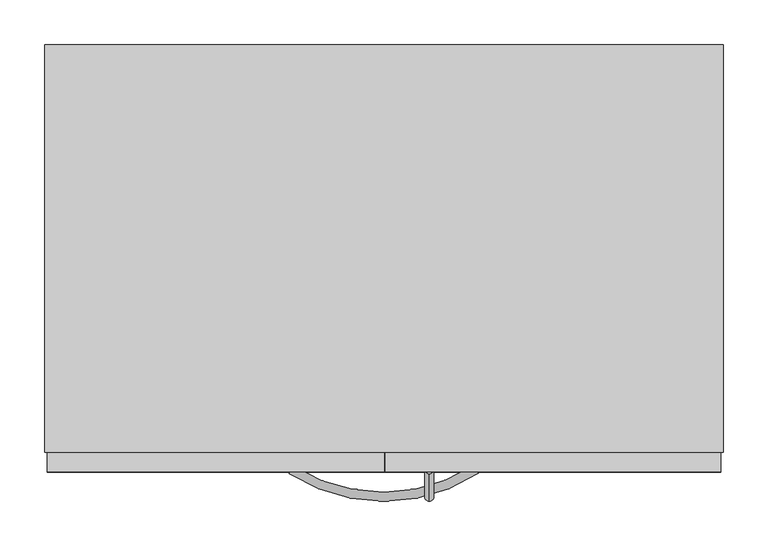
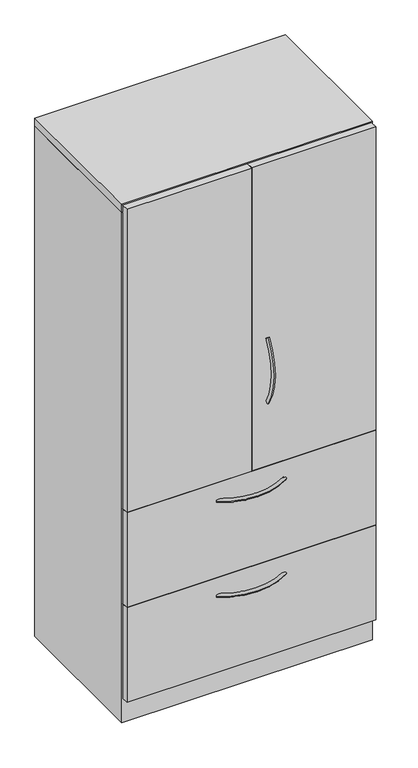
"""IFC4 building model written with IfcOpenShell, lengths in millimetres: furniture geometry, Steelcase - Universal Storage - Cabinet - Combination - Proud Steel : 65 1/2H - Hinged Doors/2 Drawers - 18 7/8D x 30W."""

from ifc_helpers import new_model, si_unit, point, frame, origin, place, context, project, spatial, polyline, circle_curve, ellipse_curve, trimmed, outline, extrude, faceted_brep, source, transform, mapped, element, save
from ifc_brep_helpers import plane_surface, revolved_surface, advanced_brep


def furniture_85a84d3b(model_context):
    return source(origin(), model_context, "Body", "SolidModel", [
        extrude(outline(polyline([(758.8225413, -479.552), (3.1725353, -479.552), (3.1725353, -457.3261219), (758.8225413, -457.3261219), (758.8225413, -479.552)])), frame((0.0, 0.0, 77.724), z_axis=(0.0, 0.0, 1.0), x_axis=(1.0, 0.0, 0.0)), (0.0, 0.0, 1.0), 303.276),
        extrude(outline(polyline([(758.8225413, -479.552), (3.1725353, -479.552), (3.1725353, -457.3261219), (758.8225413, -457.3261219), (758.8225413, -479.552)])), frame((0.0, 0.0, 382.524), z_axis=(0.0, 0.0, 1.0), x_axis=(1.0, 0.0, 0.0)), (0.0, 0.0, 1.0), 303.276),
        extrude(outline(polyline([(381.0, -479.552), (3.1725353, -479.552), (3.1725353, -457.3261219), (381.0, -457.3261219), (381.0, -479.552)])), frame((0.0, 0.0, 687.7062596), z_axis=(0.0, 0.0, 1.0), x_axis=(1.0, 0.0, 0.0)), (0.0, 0.0, 1.0), 972.82),
        extrude(outline(polyline([(758.8225413, -479.552), (382.5239992, -479.552), (382.5239992, -457.3261219), (758.8225413, -457.3261219), (758.8225413, -479.552)])), frame((0.0, 0.0, 687.7062596), z_axis=(0.0, 0.0, 1.0), x_axis=(1.0, 0.0, 0.0)), (0.0, 0.0, 1.0), 972.82),
        advanced_brep(
        [(431.7682496, -481.5705994, 1099.843666), (431.7682496, -473.0108019, 1094.3705073), (431.7682496, -481.1337636, 887.5367456), (431.7682496, -472.5965612, 893.0450825)],
        [
            (0, 1, circle_curve(frame((431.7682496, -477.2907007, 1097.1070866), z_axis=(0.0, 0.5386967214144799, 0.842499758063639), x_axis=(0.0, 0.842499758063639, -0.5386967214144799)), 5.08)),
            (1, 0, circle_curve(frame((431.7682496, -477.2907007, 1097.1070866), z_axis=(0.0, 0.5386967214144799, 0.842499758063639), x_axis=(0.0, 0.842499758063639, -0.5386967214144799)), 5.08)),
            (2, 3, circle_curve(frame((431.7682496, -476.8651624, 890.2909141), z_axis=(0.0, 0.5421591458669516, -0.8402758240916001), x_axis=(0.0, 0.8402758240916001, 0.5421591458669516)), 5.08)),
            (3, 2, circle_curve(frame((431.7682496, -476.8651624, 890.2909141), z_axis=(0.0, 0.5421591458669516, -0.8402758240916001), x_axis=(0.0, 0.8402758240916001, 0.5421591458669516)), 5.08)),
            (3, 1, circle_curve(frame((431.7682496, -316.0827352, 994.0302589), z_axis=(-1.0, 0.0, 0.0), x_axis=(0.0, -0.8424997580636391, 0.5386967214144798)), 186.2648211)),
            (0, 2, circle_curve(frame((431.7682496, -316.0827352, 994.0302589), z_axis=(1.0, 0.0, 0.0), x_axis=(0.0, -0.8424997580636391, 0.5386967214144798)), 196.4248211)),
        ],
        [
            plane_surface(frame((432.5619996, -476.6365286, 1096.6888072), z_axis=(0.0, 0.5386967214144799, 0.8424997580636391), x_axis=(1.0, 0.0, 0.0))),
            plane_surface(frame((432.5619996, -476.2127171, 890.711882), z_axis=(0.0, 0.5421591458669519, -0.8402758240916), x_axis=(1.0, 0.0, 0.0))),
            revolved_surface(trimmed(ellipse_curve(frame((431.7682496, -477.2907007, 1097.1070866), z_axis=(0.0, 0.5386967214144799, 0.842499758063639), x_axis=(0.0, 0.842499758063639, -0.5386967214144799)), 5.08, 5.08), [point((431.7682496, -481.5705994, 1099.843666))], [point((431.7682496, -473.0108019, 1094.3705073))], True, "CARTESIAN"), (432.5619996, -316.0827352, 994.0302589), (1.0, 0.0, 0.0)),
            revolved_surface(trimmed(ellipse_curve(frame((431.7682496, -477.2907007, 1097.1070866), z_axis=(0.0, 0.5386967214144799, 0.842499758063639), x_axis=(0.0, 0.842499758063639, -0.5386967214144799)), 5.08, 5.08), [point((431.7682496, -473.0108019, 1094.3705073))], [point((431.7682496, -481.5705994, 1099.843666))], True, "CARTESIAN"), (432.5619996, -316.0827352, 994.0302589), (1.0, 0.0, 0.0)),
        ],
        [
            (0, [[1, 2]]),
            (1, [[3, 4]]),
            (2, [[5, -1, 6, -4]]),
            (3, [[-6, -2, -5, -3]]),
        ],
    ),
        advanced_brep(
        [(274.4245932, -481.5705994, 323.56425), (279.8977519, -473.0108019, 323.56425), (486.7315136, -481.1337636, 323.56425), (481.2231767, -472.5965612, 323.56425)],
        [
            (0, 1, circle_curve(frame((277.1611726, -477.2907007, 323.56425), z_axis=(-0.8424997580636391, 0.5386967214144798, 0.0), x_axis=(0.5386967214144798, 0.8424997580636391, 0.0)), 5.08)),
            (1, 0, circle_curve(frame((277.1611726, -477.2907007, 323.56425), z_axis=(-0.8424997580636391, 0.5386967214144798, 0.0), x_axis=(0.5386967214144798, 0.8424997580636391, 0.0)), 5.08)),
            (2, 3, circle_curve(frame((483.9773452, -476.8651624, 323.56425), z_axis=(0.8402758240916, 0.5421591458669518, 0.0), x_axis=(-0.5421591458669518, 0.8402758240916, 0.0)), 5.08)),
            (3, 2, circle_curve(frame((483.9773452, -476.8651624, 323.56425), z_axis=(0.8402758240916, 0.5421591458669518, 0.0), x_axis=(-0.5421591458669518, 0.8402758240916, 0.0)), 5.08)),
            (3, 1, circle_curve(frame((380.2380004, -316.0827352, 323.56425), z_axis=(0.0, 0.0, -1.0), x_axis=(-0.5386967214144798, -0.8424997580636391, 0.0)), 186.2648211)),
            (0, 2, circle_curve(frame((380.2380004, -316.0827352, 323.56425), z_axis=(0.0, 0.0, 1.0), x_axis=(-0.5386967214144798, -0.8424997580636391, 0.0)), 196.4248211)),
        ],
        [
            plane_surface(frame((277.5794521, -476.6365286, 324.358), z_axis=(-0.8424997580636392, 0.5386967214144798, 0.0), x_axis=(0.0, 0.0, 1.0))),
            plane_surface(frame((483.5563772, -476.2127171, 324.358), z_axis=(0.8402758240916, 0.5421591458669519, 0.0), x_axis=(0.0, 0.0, 1.0))),
            revolved_surface(trimmed(ellipse_curve(frame((277.1611726, -477.2907007, 323.56425), z_axis=(-0.8424997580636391, 0.5386967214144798, 0.0), x_axis=(0.5386967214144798, 0.8424997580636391, 0.0)), 5.08, 5.08), [point((274.4245932, -481.5705994, 323.56425))], [point((279.8977519, -473.0108019, 323.56425))], True, "CARTESIAN"), (380.2380004, -316.0827352, 324.358), (0.0, 0.0, 1.0)),
            revolved_surface(trimmed(ellipse_curve(frame((277.1611726, -477.2907007, 323.56425), z_axis=(-0.8424997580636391, 0.5386967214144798, 0.0), x_axis=(0.5386967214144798, 0.8424997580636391, 0.0)), 5.08, 5.08), [point((279.8977519, -473.0108019, 323.56425))], [point((274.4245932, -481.5705994, 323.56425))], True, "CARTESIAN"), (380.2380004, -316.0827352, 324.358), (0.0, 0.0, 1.0)),
        ],
        [
            (0, [[1, 2]]),
            (1, [[3, 4]]),
            (2, [[5, -1, 6, -4]]),
            (3, [[-6, -2, -5, -3]]),
        ],
    ),
        advanced_brep(
        [(274.4245932, -481.5705994, 627.85625), (279.8977519, -473.0108019, 627.85625), (486.7315136, -481.1337636, 627.85625), (481.2231767, -472.5965612, 627.85625)],
        [
            (0, 1, circle_curve(frame((277.1611726, -477.2907007, 627.85625), z_axis=(-0.8424997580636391, 0.5386967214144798, 0.0), x_axis=(0.5386967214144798, 0.8424997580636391, 0.0)), 5.08)),
            (1, 0, circle_curve(frame((277.1611726, -477.2907007, 627.85625), z_axis=(-0.8424997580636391, 0.5386967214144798, 0.0), x_axis=(0.5386967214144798, 0.8424997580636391, 0.0)), 5.08)),
            (2, 3, circle_curve(frame((483.9773452, -476.8651624, 627.85625), z_axis=(0.8402758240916, 0.5421591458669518, 0.0), x_axis=(-0.5421591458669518, 0.8402758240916, 0.0)), 5.08)),
            (3, 2, circle_curve(frame((483.9773452, -476.8651624, 627.85625), z_axis=(0.8402758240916, 0.5421591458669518, 0.0), x_axis=(-0.5421591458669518, 0.8402758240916, 0.0)), 5.08)),
            (3, 1, circle_curve(frame((380.2380004, -316.0827352, 627.85625), z_axis=(0.0, 0.0, -1.0), x_axis=(-0.5386967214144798, -0.8424997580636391, 0.0)), 186.2648211)),
            (0, 2, circle_curve(frame((380.2380004, -316.0827352, 627.85625), z_axis=(0.0, 0.0, 1.0), x_axis=(-0.5386967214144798, -0.8424997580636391, 0.0)), 196.4248211)),
        ],
        [
            plane_surface(frame((277.5794521, -476.6365286, 628.65), z_axis=(-0.8424997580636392, 0.5386967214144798, 0.0), x_axis=(0.0, 0.0, 1.0))),
            plane_surface(frame((483.5563772, -476.2127171, 628.65), z_axis=(0.8402758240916, 0.5421591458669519, 0.0), x_axis=(0.0, 0.0, 1.0))),
            revolved_surface(trimmed(ellipse_curve(frame((277.1611726, -477.2907007, 627.85625), z_axis=(-0.8424997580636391, 0.5386967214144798, 0.0), x_axis=(0.5386967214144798, 0.8424997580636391, 0.0)), 5.08, 5.08), [point((274.4245932, -481.5705994, 627.85625))], [point((279.8977519, -473.0108019, 627.85625))], True, "CARTESIAN"), (380.2380004, -316.0827352, 628.65), (0.0, 0.0, 1.0)),
            revolved_surface(trimmed(ellipse_curve(frame((277.1611726, -477.2907007, 627.85625), z_axis=(-0.8424997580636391, 0.5386967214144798, 0.0), x_axis=(0.5386967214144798, 0.8424997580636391, 0.0)), 5.08, 5.08), [point((279.8977519, -473.0108019, 627.85625))], [point((274.4245932, -481.5705994, 627.85625))], True, "CARTESIAN"), (380.2380004, -316.0827352, 628.65), (0.0, 0.0, 1.0)),
        ],
        [
            (0, [[1, 2]]),
            (1, [[3, 4]]),
            (2, [[5, -1, 6, -4]]),
            (3, [[-6, -2, -5, -3]]),
        ],
    ),
        faceted_brep([(25.4000008, -457.3261219, 76.2), (736.6000242, -457.3261219, 76.2), (736.6000242, -25.4000008, 76.2), (25.4000008, -25.4000008, 76.2), (762.0, 0.0, 0.0), (762.0, -457.3261219, 0.0), (0.0, -457.3261219, 0.0), (0.0, 0.0, 0.0), (0.0, 0.0, 1636.776), (762.0, 0.0, 1636.776), (0.0, -457.3261219, 1636.776), (762.0, -457.3261219, 1636.776), (736.6000242, -457.3261219, 1636.776), (25.4000008, -457.3261219, 1636.776), (736.6000242, -25.4000008, 1636.776), (25.4000008, -25.4000008, 1636.776)], [[[0, 1, 2, 3]], [[4, 5, 6, 7]], [[4, 7, 8, 9]], [[8, 7, 6, 10]], [[10, 6, 5, 11, 12, 1, 0, 13]], [[11, 5, 4, 9]], [[14, 12, 11, 9, 8, 10, 13, 15]], [[12, 14, 2, 1]], [[15, 13, 0, 3]], [[14, 15, 3, 2]]]),
        extrude(outline(polyline([(762.0, 0.0), (762.0, -457.3261219), (0.0, -457.3261219), (0.0, 0.0), (762.0, 0.0)])), frame((0.0, 0.0, 1638.2999516), z_axis=(0.0, 0.0, 1.0), x_axis=(1.0, 0.0, 0.0)), (0.0, 0.0, 1.0), 25.4000484),
    ])


if __name__ == "__main__":
    model = new_model("IFC4")
    model_context = context("Model", 3, world=origin())
    ifc_project = project(units=[si_unit("LENGTHUNIT", "METRE", prefix="MILLI")], contexts=[model_context])
    site = spatial("IfcSite", under=ifc_project)
    building = spatial("IfcBuilding", under=site)
    placement = place(None, origin())
    furniture_shape = furniture_85a84d3b(model_context)
    element("IfcFurniture", 1, ObjectType="Steelcase - Universal Storage - Cabinet - Combination - Proud Steel : 65 1/2H - Hinged Doors/2 Drawers - 18 7/8D x 30W", at=placement, inside=building, context=model_context, shape_type="MappedRepresentation", body=[
        mapped(furniture_shape, transform((0.0, 0.0, 0.0), x_axis=(1.0, 0.0, 0.0), y_axis=(0.0, 1.0, 0.0), z_axis=(0.0, 0.0, 1.0))),
    ])
    save(model, "model.ifc")
